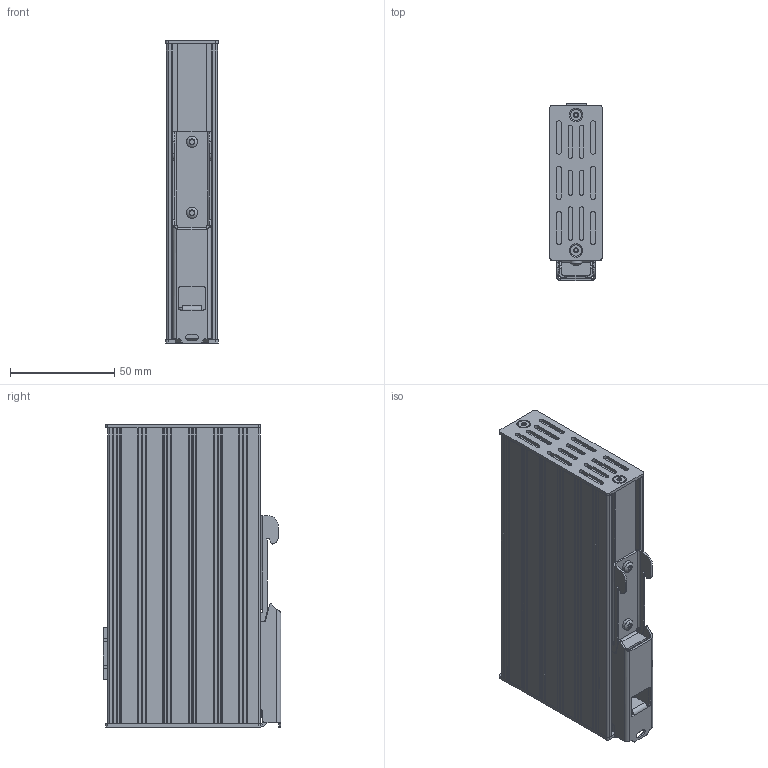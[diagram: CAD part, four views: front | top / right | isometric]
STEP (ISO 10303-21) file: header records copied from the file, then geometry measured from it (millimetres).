
FILE_DESCRIPTION(('TFLEX Exchange Step'),'2;1');
FILE_NAME('TZCA211501X0A_NITE-RS61-110X0.stp', '2019-08-01T15:24:38+02:00',('User'),('Unknown organisation'),'TFLEX Exchange 2019.0','T-FLEX CAD','Unknown authorisation');
FILE_SCHEMA( ('AUTOMOTIVE_DESIGN { 1 0 10303 214 1 1 1 1 }') );
Length unit declared in the file: millimetre
Products named in the file (1): Körper_1 - 3D-Fragment_1:1
Bounding box: 25 x 85.3 x 145.05 mm (x, y, z)
Volume: 244523.2 mm3; surface area: 53338.4 mm2
Topology: 1 solids, 25 shells, 2213 faces, 6143 edges, 4054 vertices
Faces by surface type: plane 1279, cylinder 598, bspline 289, torus 22, cone 18, extrusion 5, sphere 2
Full cylindrical faces by diameter (mm): 0.5 x48, 1.2 x11, 3 x6, 3.15 x2, 3.2 x4, 3.5 x2, 5.5 x10, 6 x4
Entity records: 83206 total; most frequent: CARTESIAN_POINT 29849, ORIENTED_EDGE 12190, DIRECTION 8788, EDGE_CURVE 6095, VERTEX_POINT 4054, AXIS2_PLACEMENT_3D 3050, VECTOR 2688, LINE 2683
